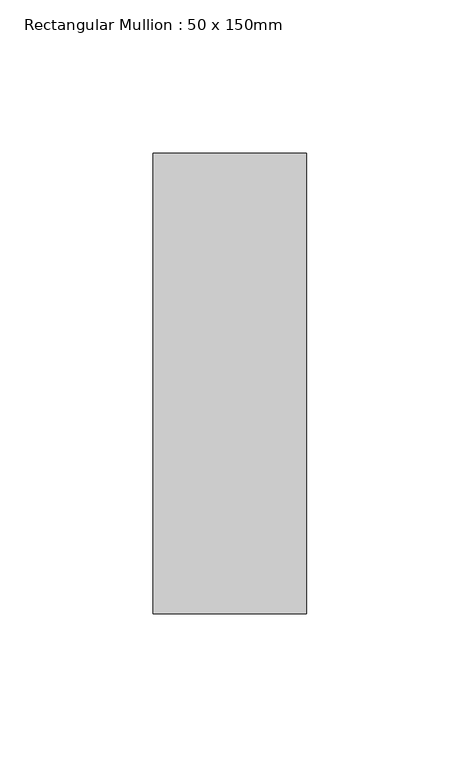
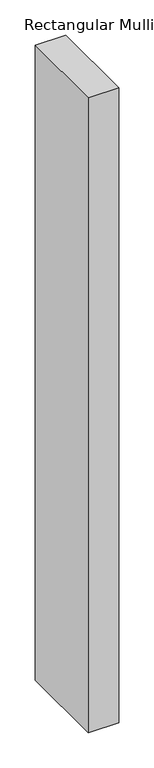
"""IFC4 building model written with IfcOpenShell, lengths in millimetres: member geometry, Rectangular Mullion : 50 x 150mm."""

from ifc_helpers import new_model, si_unit, frame, origin, place, context, project, spatial, polyline, outline, extrude, source, transform, mapped, element, save


def rectangular_mullion_50_x_150mm_47d828c5(model_context):
    return source(origin(), model_context, "Body", "SweptSolid", [
        extrude(outline(polyline([(0.0, 75.0), (0.0, -75.0), (-50.0, -75.0), (-50.0, 75.0), (0.0, 75.0)])), frame((0.0, 0.0, -1100.0000002), z_axis=(0.0, 0.0, 1.0), x_axis=(1.0, 0.0, 0.0)), (0.0, 0.0, 1.0), 1100.0000002),
    ])


if __name__ == "__main__":
    model = new_model("IFC4")
    model_context = context("Model", 3, world=origin())
    ifc_project = project(units=[si_unit("LENGTHUNIT", "METRE", prefix="MILLI")], contexts=[model_context])
    site = spatial("IfcSite", under=ifc_project)
    building = spatial("IfcBuilding", under=site)
    placement = place(None, origin())
    rectangular_mullion_50_x_150mm_shape = rectangular_mullion_50_x_150mm_47d828c5(model_context)
    element("IfcMember", 1, ObjectType="Rectangular Mullion : 50 x 150mm", at=placement, inside=building, context=model_context, shape_type="MappedRepresentation", body=[
        mapped(rectangular_mullion_50_x_150mm_shape, transform((0.0, 0.0, 0.0), x_axis=(1.0, 0.0, 0.0), y_axis=(0.0, 1.0, 0.0), z_axis=(0.0, 0.0, 1.0))),
    ])
    save(model, "model.ifc")
